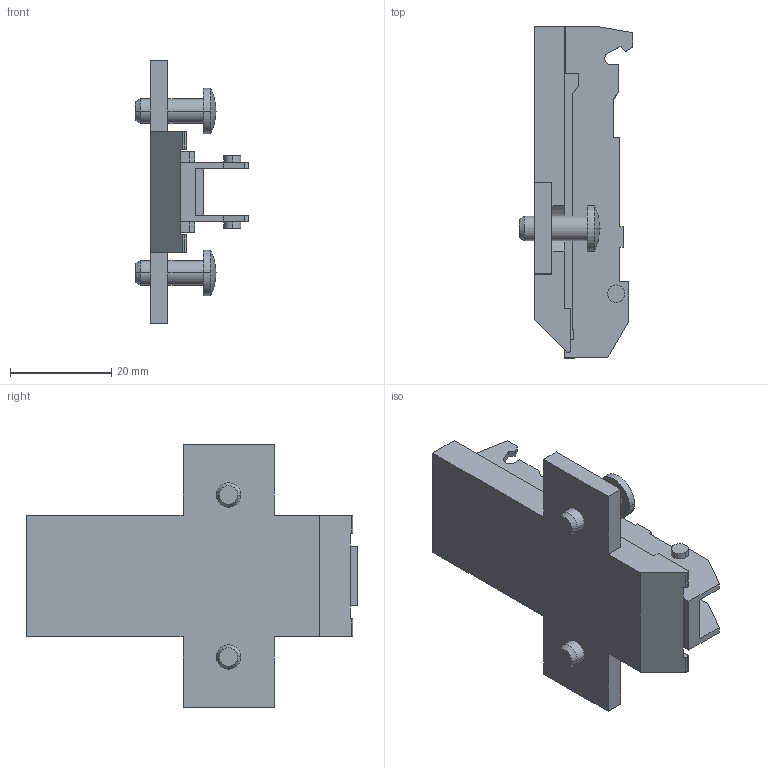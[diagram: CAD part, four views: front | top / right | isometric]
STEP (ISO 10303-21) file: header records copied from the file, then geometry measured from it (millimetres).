
FILE_DESCRIPTION (( 'STEP AP214' ), '1' );
FILE_NAME ('1D Kreuzmontageplatte_37_32_H09_Euro.STEP', '2011-08-18T14:00:49', ( '' ), ( '' ), 'SwSTEP 2.0', 'SolidWorks 2011', '' );
FILE_SCHEMA (( 'AUTOMOTIVE_DESIGN' ));
Length unit declared in the file: millimetre
Products named in the file (1): 1D Kreuzmontageplatte_37_32_H09_Euro
Bounding box: 22.5 x 65.55 x 52 mm (x, y, z)
Volume: 15318 mm3; surface area: 8730.9 mm2
Topology: 1 solids, 1 shells, 124 faces, 338 edges, 224 vertices
Faces by surface type: plane 92, cylinder 24, cone 4, sphere 4
Entity records: 3924 total; most frequent: CARTESIAN_POINT 687, ORIENTED_EDGE 676, DIRECTION 648, EDGE_CURVE 338, LINE 278, VECTOR 278, VERTEX_POINT 224, AXIS2_PLACEMENT_3D 185
